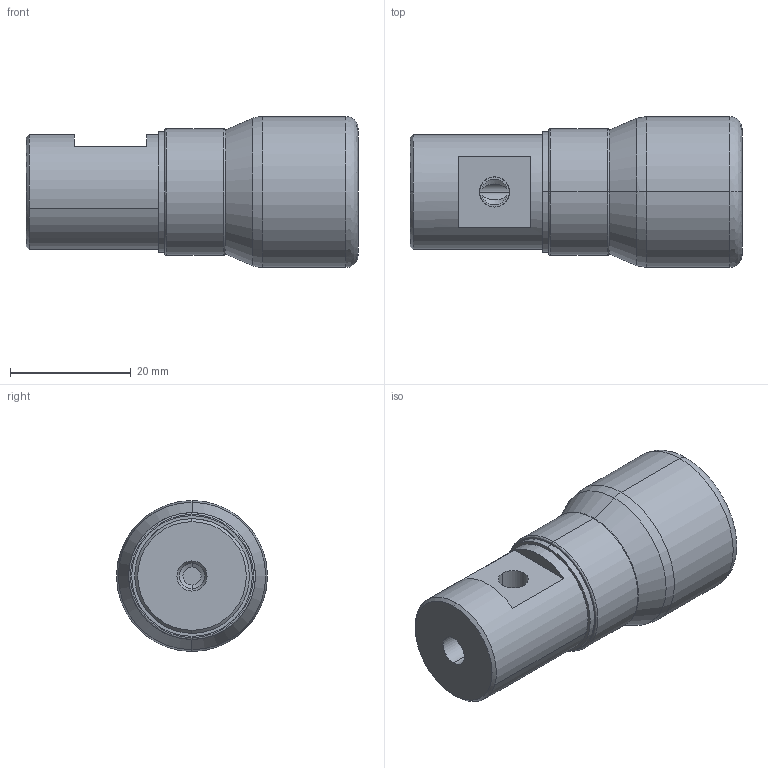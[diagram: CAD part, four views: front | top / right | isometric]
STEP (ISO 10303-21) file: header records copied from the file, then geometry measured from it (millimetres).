
FILE_DESCRIPTION( (''), '2;1');
FILE_NAME ('TGMX25.1684.RBP019RCA_22920.stp','2015-03-30T15:11:01',(''),(''),'spGate 11.3.7','spGate','');
FILE_SCHEMA (('AUTOMOTIVE_DESIGN'));
Length unit declared in the file: millimetre
Bounding box: 55 x 25 x 25 mm (x, y, z)
Volume: 18643.8 mm3; surface area: 5281.8 mm2
Topology: 1 solids, 1 shells, 50 faces, 109 edges, 67 vertices
Faces by surface type: bspline 20, cylinder 18, plane 12
Entity records: 2572 total; most frequent: CARTESIAN_POINT 654, ORIENTED_EDGE 218, DIRECTION 190, COLOUR_RGB 160, PRESENTATION_STYLE_ASSIGNMENT 160, STYLED_ITEM 160, EDGE_CURVE 109, DRAUGHTING_PRE_DEFINED_CURVE_FONT 109
